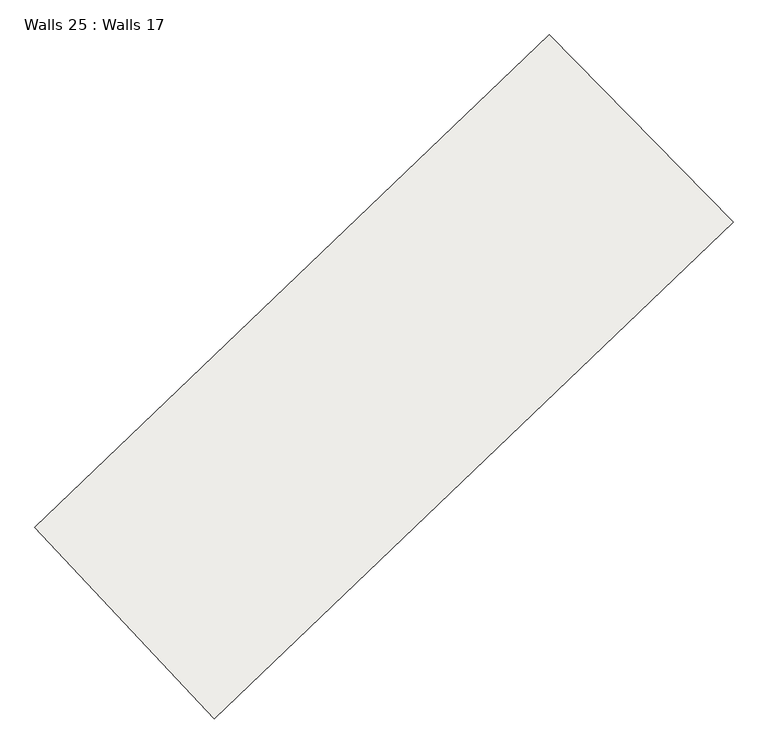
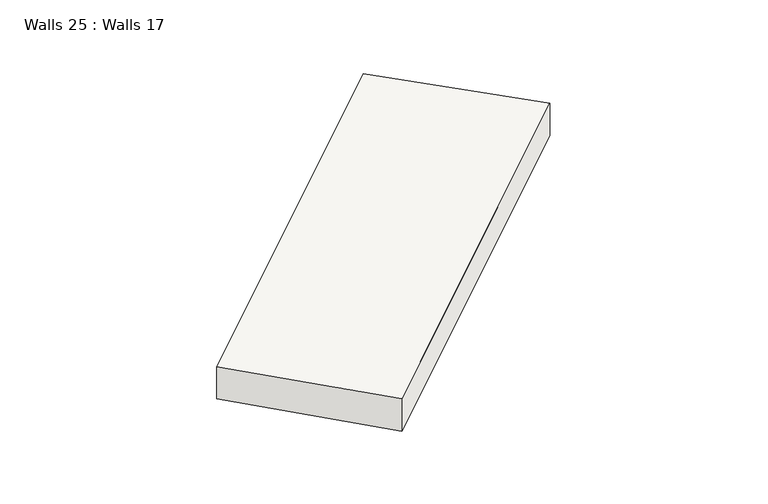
"""IFC4 building model written with IfcOpenShell, lengths in millimetres: slab geometry, Walls 25 : Walls 17."""

from ifc_helpers import new_model, si_unit, frame, origin, place, context, project, spatial, source, transform, mapped, element, save
from ifc_brep_helpers import plane_surface, spline_curve, spline_surface, advanced_brep


def walls_25_walls_17_31f70068(model_context):
    return source(origin(), model_context, "Body", "AdvancedBrep", [
        advanced_brep(
        [(-237966.6597201, -401168.6660407, 635340.0), (-237966.6597201, -401168.6660407, 634690.0), (-240205.318873, -398887.4294938, 634690.0), (-240205.318873, -398887.4294938, 635340.0), (-244291.0700432, -407226.7734264, 635270.0), (-246474.5885779, -404891.4254154, 635270.0), (-246474.5885779, -404891.4254154, 634620.0), (-244291.0700432, -407226.7734264, 634620.0)],
        [
            (0, 1),
            (1, 2),
            (2, 3),
            (3, 0),
            (4, 5),
            (5, 6),
            (6, 7),
            (7, 4),
            (7, 1, spline_curve(3, [(-244291.0700432, -407226.7734264, 634620.0), (-242158.635160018, -405232.975898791, 634643.333332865), (-240050.293182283, -403213.410206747, 634666.666667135), (-237966.6597201, -401168.6660407, 634690.0)], [4, 4], [0.0, 28.734336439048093])),
            (0, 4, spline_curve(3, [(-237966.6597201, -401168.6660407, 635340.0), (-240050.293182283, -403213.410206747, 635316.666667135), (-242158.635160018, -405232.975898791, 635293.333332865), (-244291.0700432, -407226.7734264, 635270.0)], [4, 4], [0.0, 28.734336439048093])),
            (6, 2, spline_curve(3, [(-246474.5885779, -404891.4254154, 634620.0), (-244360.753691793, -402915.444649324, 634643.333333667), (-242270.793666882, -400913.917912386, 634666.666666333), (-240205.318873, -398887.4294938, 634690.0)], [4, 4], [0.0, 28.607614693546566])),
            (5, 3, spline_curve(3, [(-246474.5885779, -404891.4254154, 635270.0), (-244360.753691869, -402915.444649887, 635293.333333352), (-242270.793666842, -400913.917912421, 635316.666666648), (-240205.318873, -398887.4294938, 635340.0)], [4, 4], [0.0, 28.480893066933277])),
        ],
        [
            plane_surface(frame((-239085.9892966, -400028.0477672, 635015.0), z_axis=(0.7137360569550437, 0.700414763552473, 0.0), x_axis=(-0.700414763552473, 0.7137360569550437, 0.0))),
            plane_surface(frame((-245382.8293105, -406059.0994209, 634945.0), z_axis=(-0.7304526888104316, -0.6829633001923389, 0.0), x_axis=(0.0, 0.0, -1.0))),
            spline_surface(3, 3, [[(-244291.0700432, -407226.7734264, 635270.0), (-242158.635160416, -405232.975898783, 635293.333333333), (-240050.293182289, -403213.410207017, 635316.666666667), (-237966.6597201, -401168.6660407, 635340.0)], [(-244291.0700432, -407226.7734264, 635053.333333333), (-242158.635160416, -405232.975898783, 635076.666666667), (-240050.293182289, -403213.410207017, 635100.0), (-237966.6597201, -401168.6660407, 635123.333333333)], [(-244291.0700432, -407226.7734264, 634836.666666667), (-242158.635160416, -405232.975898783, 634860.0), (-240050.293182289, -403213.410207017, 634883.333333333), (-237966.6597201, -401168.6660407, 634906.666666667)], [(-244291.0700432, -407226.7734264, 634620.0), (-242158.635160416, -405232.975898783, 634643.333333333), (-240050.293182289, -403213.410207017, 634666.666666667), (-237966.6597201, -401168.6660407, 634690.0)]], [4, 4], [4, 4], [0.0, 2.1325459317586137], [0.0, 28.734336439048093]),
            spline_surface(3, 3, [[(-244291.0700432, -407226.7734264, 634620.0), (-242158.635160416, -405232.975898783, 634643.333333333), (-240050.293182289, -403213.410207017, 634666.666666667), (-237966.6597201, -401168.6660407, 634690.0)], [(-245018.909554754, -406448.32408939, 634620.0), (-242892.674670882, -404460.465482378, 634643.333333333), (-240790.460010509, -402446.912775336, 634666.666666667), (-238712.879437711, -400408.253858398, 634690.0)], [(-245746.749066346, -405669.87475241, 634620.0), (-243626.714181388, -403687.955066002, 634643.333333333), (-241530.626838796, -401680.415343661, 634666.666666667), (-239459.099155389, -399647.841676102, 634690.0)], [(-246474.5885779, -404891.4254154, 634620.0), (-244360.753691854, -402915.444649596, 634643.333333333), (-242270.793667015, -400913.91791198, 634666.666666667), (-240205.318873, -398887.4294938, 634690.0)]], [4, 4], [4, 4], [0.0, 10.487721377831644], [0.0, 28.607614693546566]),
            spline_surface(3, 3, [[(-246474.5885779, -404891.4254154, 634620.0), (-244360.753691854, -402915.444649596, 634643.333333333), (-242270.793667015, -400913.91791198, 634666.666666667), (-240205.318873, -398887.4294938, 634690.0)], [(-246474.5885779, -404891.4254154, 634836.666666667), (-244360.753691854, -402915.444649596, 634860.0), (-242270.793667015, -400913.91791198, 634883.333333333), (-240205.318873, -398887.4294938, 634906.666666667)], [(-246474.5885779, -404891.4254154, 635053.333333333), (-244360.753691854, -402915.444649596, 635076.666666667), (-242270.793667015, -400913.91791198, 635100.0), (-240205.318873, -398887.4294938, 635123.333333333)], [(-246474.5885779, -404891.4254154, 635270.0), (-244360.753691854, -402915.444649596, 635293.333333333), (-242270.793667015, -400913.91791198, 635316.666666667), (-240205.318873, -398887.4294938, 635340.0)]], [4, 4], [4, 4], [0.0, 2.1325459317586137], [0.0, 28.480893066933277]),
            spline_surface(3, 3, [[(-246474.5885779, -404891.4254154, 635270.0), (-244360.753691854, -402915.444649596, 635293.333333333), (-242270.793667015, -400913.91791198, 635316.666666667), (-240205.318873, -398887.4294938, 635340.0)], [(-245746.749066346, -405669.87475241, 635270.0), (-243626.714181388, -403687.955066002, 635293.333333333), (-241530.626838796, -401680.415343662, 635316.666666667), (-239459.099155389, -399647.841676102, 635340.0)], [(-245018.909554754, -406448.32408939, 635270.0), (-242892.674670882, -404460.465482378, 635293.333333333), (-240790.460010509, -402446.912775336, 635316.666666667), (-238712.879437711, -400408.253858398, 635340.0)], [(-244291.0700432, -407226.7734264, 635270.0), (-242158.635160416, -405232.975898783, 635293.333333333), (-240050.293182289, -403213.410207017, 635316.666666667), (-237966.6597201, -401168.6660407, 635340.0)]], [4, 4], [4, 4], [0.0, 10.487721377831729], [0.0, 28.607614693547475]),
        ],
        [
            (0, [[1, 2, 3, 4]]),
            (1, [[5, 6, 7, 8]]),
            (2, [[-8, 9, -1, 10]]),
            (3, [[-7, 11, -2, -9]]),
            (4, [[-6, 12, -3, -11]]),
            (5, [[-5, -10, -4, -12]]),
        ],
    ),
    ])


if __name__ == "__main__":
    model = new_model("IFC4")
    model_context = context("Model", 3, world=origin())
    ifc_project = project(units=[si_unit("LENGTHUNIT", "METRE", prefix="MILLI")], contexts=[model_context])
    site = spatial("IfcSite", under=ifc_project)
    building = spatial("IfcBuilding", under=site)
    placement = place(None, origin())
    walls_25_walls_17_shape = walls_25_walls_17_31f70068(model_context)
    element("IfcSlab", 1, ObjectType="Walls 25 : Walls 17", at=placement, inside=building, context=model_context, shape_type="MappedRepresentation", body=[
        mapped(walls_25_walls_17_shape, transform((0.0, 0.0, 0.0), x_axis=(1.0, 0.0, 0.0), y_axis=(0.0, 1.0, 0.0), z_axis=(0.0, 0.0, 1.0))),
    ])
    save(model, "model.ifc")
